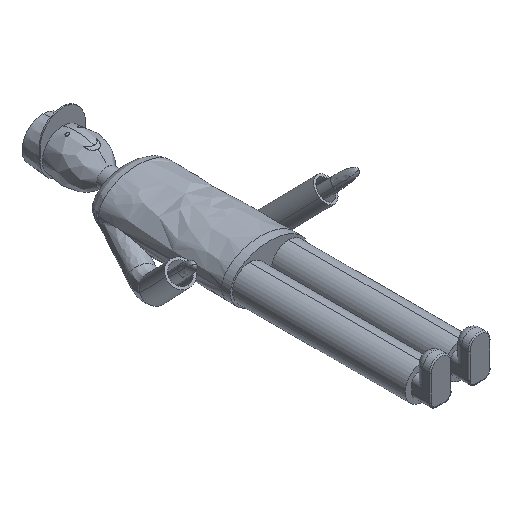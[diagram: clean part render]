
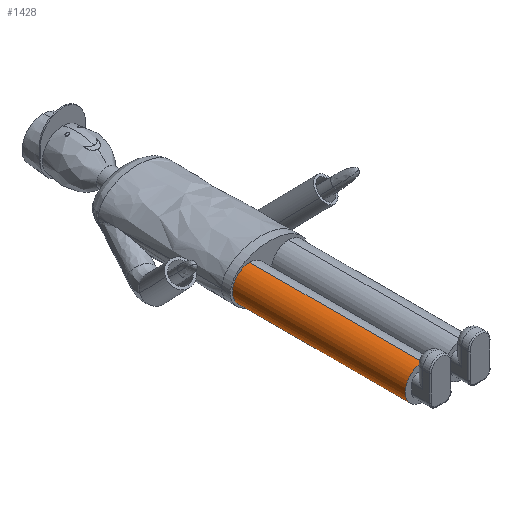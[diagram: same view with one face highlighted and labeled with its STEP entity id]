
A CAD part, isometric view. The second image highlights one B-rep face of the part: STEP entity #1428.
In plain terms, the highlighted cylindrical face has radius 80 mm (diameter 160 mm), a partial arc.
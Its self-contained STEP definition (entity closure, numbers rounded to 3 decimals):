
#772 = VERTEX_POINT ( 'NONE', #2361 ) ;
#798 = EDGE_CURVE ( 'NONE', #869, #772, #2374, .T. ) ;
#868 = VERTEX_POINT ( 'NONE', #3051 ) ;
#869 = VERTEX_POINT ( 'NONE', #3050 ) ;
#899 = EDGE_CURVE ( 'NONE', #868, #900, #3454, .T. ) ;
#900 = VERTEX_POINT ( 'NONE', #3271 ) ;
#1354 = ORIENTED_EDGE ( 'NONE', *, *, #1368, .T. ) ;
#1357 = ORIENTED_EDGE ( 'NONE', *, *, #899, .F. ) ;
#1362 = EDGE_LOOP ( 'NONE', ( #1357, #1419, #1406, #1354 ) ) ;
#1368 = EDGE_CURVE ( 'NONE', #772, #900, #10563, .T. ) ;
#1406 = ORIENTED_EDGE ( 'NONE', *, *, #798, .T. ) ;
#1419 = ORIENTED_EDGE ( 'NONE', *, *, #1420, .F. ) ;
#1420 = EDGE_CURVE ( 'NONE', #869, #868, #10646, .T. ) ;
#1428 = ADVANCED_FACE ( 'NONE', ( #10637 ), #10636, .T. ) ;
#2361 = CARTESIAN_POINT ( 'NONE',  ( 0., 85., -30. ) ) ;
#2371 = DIRECTION ( 'NONE',  ( 0., -1., 0. ) ) ;
#2372 = VECTOR ( 'NONE', #2371, 1000. ) ;
#2373 = CARTESIAN_POINT ( 'NONE',  ( 0., 925., -30. ) ) ;
#2374 = LINE ( 'NONE', #2373, #2372 ) ;
#3050 = CARTESIAN_POINT ( 'NONE',  ( 0., 884.999, -30. ) ) ;
#3051 = CARTESIAN_POINT ( 'NONE',  ( 0., 884.999, 130. ) ) ;
#3271 = CARTESIAN_POINT ( 'NONE',  ( 0., 85., 130. ) ) ;
#3272 = DIRECTION ( 'NONE',  ( 0., -1., 0. ) ) ;
#3452 = VECTOR ( 'NONE', #3272, 1000. ) ;
#3453 = CARTESIAN_POINT ( 'NONE',  ( 0., 925., 130. ) ) ;
#3454 = LINE ( 'NONE', #3453, #3452 ) ;
#10559 = DIRECTION ( 'NONE',  ( 0., 0., 1. ) ) ;
#10560 = DIRECTION ( 'NONE',  ( 0., 1., 0. ) ) ;
#10561 = CARTESIAN_POINT ( 'NONE',  ( 0., 85., 50. ) ) ;
#10562 = AXIS2_PLACEMENT_3D ( 'NONE', #10561, #10560, #10559 ) ;
#10563 = CIRCLE ( 'NONE', #10562, 80. ) ;
#10611 = DIRECTION ( 'NONE',  ( 0., 0., -1. ) ) ;
#10612 = DIRECTION ( 'NONE',  ( 0., -1., 0. ) ) ;
#10613 = CARTESIAN_POINT ( 'NONE',  ( 0., 925., 50. ) ) ;
#10614 = AXIS2_PLACEMENT_3D ( 'NONE', #10613, #10612, #10611 ) ;
#10636 = CYLINDRICAL_SURFACE ( 'NONE', #10614, 80. ) ;
#10637 = FACE_OUTER_BOUND ( 'NONE', #1362, .T. ) ;
#10642 = DIRECTION ( 'NONE',  ( 0., 0., 1. ) ) ;
#10643 = DIRECTION ( 'NONE',  ( 0., 1., 0. ) ) ;
#10644 = CARTESIAN_POINT ( 'NONE',  ( 0., 884.999, 50. ) ) ;
#10645 = AXIS2_PLACEMENT_3D ( 'NONE', #10644, #10643, #10642 ) ;
#10646 = CIRCLE ( 'NONE', #10645, 80. ) ;
